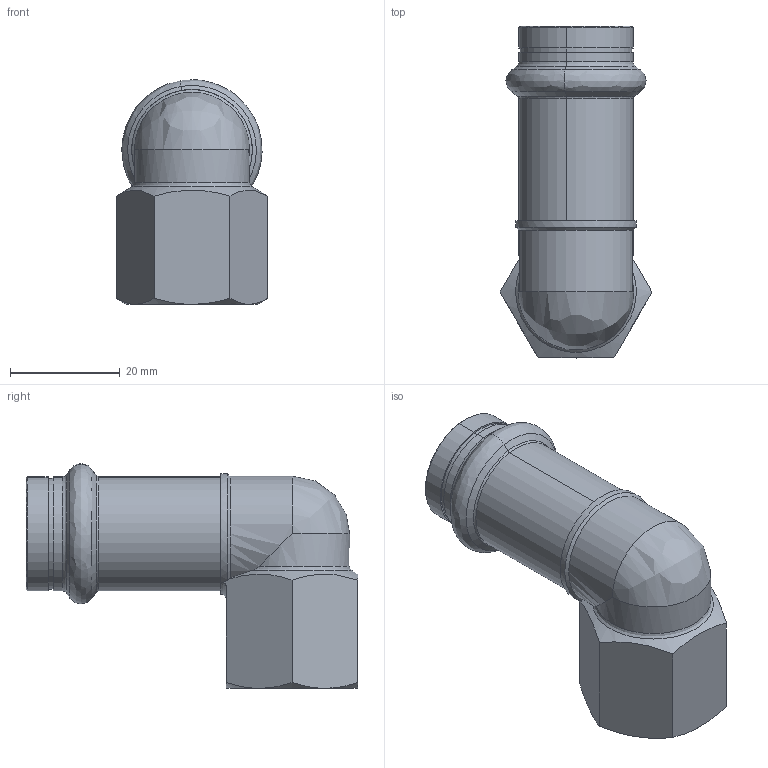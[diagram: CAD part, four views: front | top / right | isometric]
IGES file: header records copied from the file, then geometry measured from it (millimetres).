
Start section: Elysium IGES Interface
Global section: file name: F:\3d modellen sudo\S-Pr VP\SP6090GV\6090GVW1812.igs; native system: CoCreate Modeling 17.00A  17-Jun-2010; preprocessor: CoCreate IGES_3D V2.2; author: Unknown; organization: Unknown; date: 20130128.095342; units: millimetre
Bounding box: 27.71 x 60.5 x 40.99 mm (x, y, z)
Volume: 11662.2 mm3; surface area: 10184 mm2
Topology: 1 solids, 1 shells, 75 faces, 167 edges, 98 vertices
Faces by surface type: bspline 75
